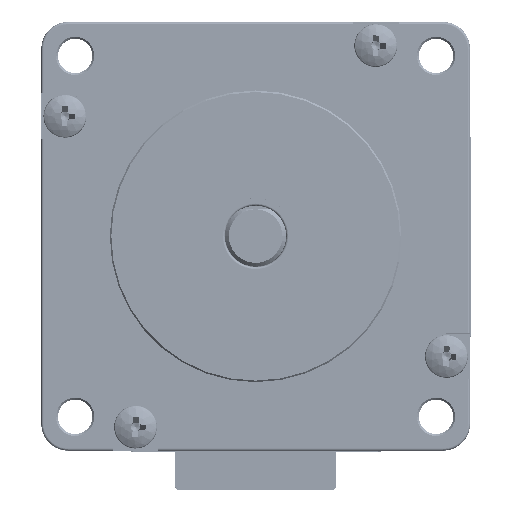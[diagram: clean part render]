
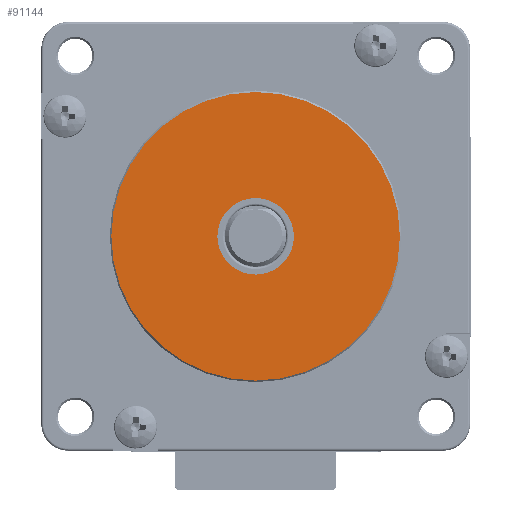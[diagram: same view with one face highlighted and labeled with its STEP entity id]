
A CAD part, top view. The second image highlights one B-rep face of the part: STEP entity #91144.
In plain terms, the highlighted planar face has unit normal (0, 0, 1).
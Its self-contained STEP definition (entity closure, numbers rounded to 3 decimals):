
#2056 = DIRECTION ( 'NONE',  ( 0., 0., 1. ) ) ;
#2320 = ORIENTED_EDGE ( 'NONE', *, *, #127640, .F. ) ;
#16866 = CARTESIAN_POINT ( 'NONE',  ( 18.85, 0., 80.5 ) ) ;
#19322 = AXIS2_PLACEMENT_3D ( 'NONE', #111521, #113693, #128644 ) ;
#25104 = ORIENTED_EDGE ( 'NONE', *, *, #56241, .T. ) ;
#26364 = FACE_BOUND ( 'NONE', #43767, .T. ) ;
#32621 = DIRECTION ( 'NONE',  ( 1., 0., 0. ) ) ;
#33260 = AXIS2_PLACEMENT_3D ( 'NONE', #51214, #84032, #32621 ) ;
#35108 = VERTEX_POINT ( 'NONE', #40610 ) ;
#38004 = DIRECTION ( 'NONE',  ( 0., 0., 1. ) ) ;
#40610 = CARTESIAN_POINT ( 'NONE',  ( -5., 0., 80.5 ) ) ;
#43692 = CIRCLE ( 'NONE', #19322, 18.85 ) ;
#43767 = EDGE_LOOP ( 'NONE', ( #151163, #2320 ) ) ;
#51214 = CARTESIAN_POINT ( 'NONE',  ( 0., 0., 80.5 ) ) ;
#54380 = PLANE ( 'NONE',  #171255 ) ;
#55620 = FACE_OUTER_BOUND ( 'NONE', #141028, .T. ) ;
#56241 = EDGE_CURVE ( 'NONE', #127102, #212452, #43692, .T. ) ;
#56352 = CARTESIAN_POINT ( 'NONE',  ( 5., 0., 80.5 ) ) ;
#59330 = AXIS2_PLACEMENT_3D ( 'NONE', #72007, #2056, #106189 ) ;
#72007 = CARTESIAN_POINT ( 'NONE',  ( 0., 0., 80.5 ) ) ;
#77065 = CIRCLE ( 'NONE', #59330, 5. ) ;
#79132 = DIRECTION ( 'NONE',  ( 1., 0., 0. ) ) ;
#84032 = DIRECTION ( 'NONE',  ( 0., 0., 1. ) ) ;
#91144 = ADVANCED_FACE ( 'NONE', ( #55620, #26364 ), #54380, .T. ) ;
#106189 = DIRECTION ( 'NONE',  ( 1., 0., 0. ) ) ;
#107157 = DIRECTION ( 'NONE',  ( 1., 0., 0. ) ) ;
#110406 = ORIENTED_EDGE ( 'NONE', *, *, #123612, .T. ) ;
#111521 = CARTESIAN_POINT ( 'NONE',  ( 0., 0., 80.5 ) ) ;
#113693 = DIRECTION ( 'NONE',  ( 0., 0., 1. ) ) ;
#123612 = EDGE_CURVE ( 'NONE', #212452, #127102, #174768, .T. ) ;
#127102 = VERTEX_POINT ( 'NONE', #157199 ) ;
#127640 = EDGE_CURVE ( 'NONE', #205228, #35108, #77065, .T. ) ;
#128644 = DIRECTION ( 'NONE',  ( 1., 0., 0. ) ) ;
#141028 = EDGE_LOOP ( 'NONE', ( #25104, #110406 ) ) ;
#151163 = ORIENTED_EDGE ( 'NONE', *, *, #196931, .F. ) ;
#154935 = AXIS2_PLACEMENT_3D ( 'NONE', #165312, #183153, #79132 ) ;
#157199 = CARTESIAN_POINT ( 'NONE',  ( -18.85, 0., 80.5 ) ) ;
#165312 = CARTESIAN_POINT ( 'NONE',  ( 0., 0., 80.5 ) ) ;
#171255 = AXIS2_PLACEMENT_3D ( 'NONE', #209074, #38004, #107157 ) ;
#174768 = CIRCLE ( 'NONE', #33260, 18.85 ) ;
#183153 = DIRECTION ( 'NONE',  ( 0., 0., 1. ) ) ;
#196931 = EDGE_CURVE ( 'NONE', #35108, #205228, #198997, .T. ) ;
#198997 = CIRCLE ( 'NONE', #154935, 5. ) ;
#205228 = VERTEX_POINT ( 'NONE', #56352 ) ;
#209074 = CARTESIAN_POINT ( 'NONE',  ( 0., 0., 80.5 ) ) ;
#212452 = VERTEX_POINT ( 'NONE', #16866 ) ;
